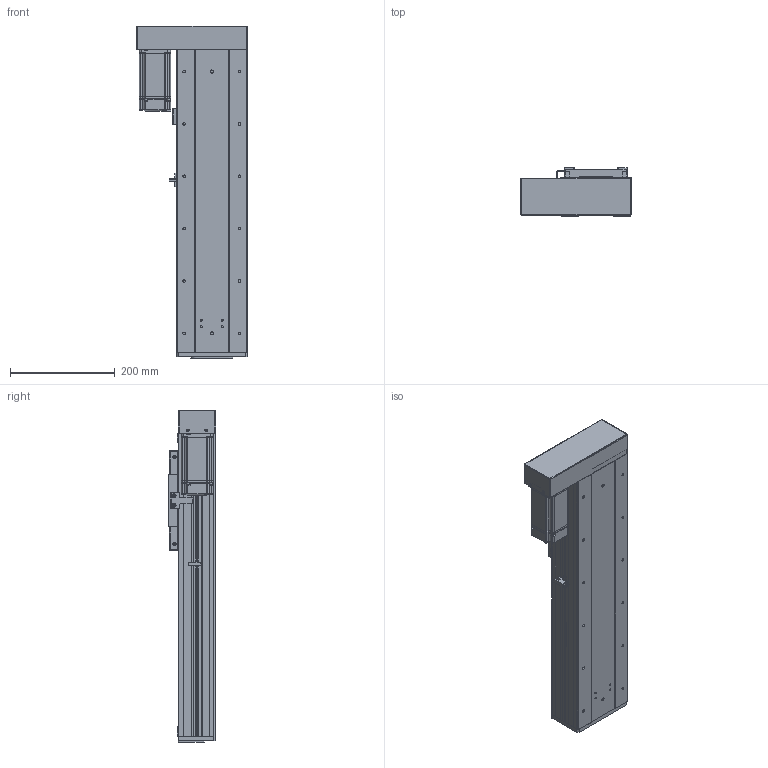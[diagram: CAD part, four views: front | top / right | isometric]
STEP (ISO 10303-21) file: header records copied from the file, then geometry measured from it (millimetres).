
FILE_DESCRIPTION (( 'STEP AP203' ), '1' );
FILE_NAME ('RY140F-L2020-300-LK.SLDASM_300.step', '2021-03-02T08:36:42', ( '盈信电脑' ), ( '东莞市道滘镇水果街19号' ), 'SwSTEP 2.0', 'SolidWorks 2012', '' );
FILE_SCHEMA (( 'CONFIG_CONTROL_DESIGN' ));
Products named in the file (19): RY140F-左右折电机安装板(400W M5); RY140F-L2020-300-LK.SLDASM_300; RY140F-酘衵殏萇儂欶(400W); RY140F-672覜茼んえ; RY140F-詩湍揤え; RY140F-转折折电机座（7001）; 侐源滅袉蝶; 15; RY140F-后盖板(铝件）; 覜茼ん672; 侂狟400W侜督萇儂; RY140F-詩湍幗謫粣; RY140F-直连型材铝滑块(16丝杆); RY100F-詩湍揤踡謫; RY140F-300-LK蛌殏詩湍; RY140F-直连型材铝滑块连接座; RY140F-300-LK倰第奻裔啣; RY140F-滅鳥奻裔; RY140F-300-LK倰第菁釱
Assembly tree (23 placements, depth 3):
  RY140F-L2020-300-LK.SLDASM_300
    RY140F-300-LK倰第菁釱
    RY140F-300-LK倰第奻裔啣  x2
    RY140F-300-LK蛌殏詩湍
    RY140F-直连型材铝滑块连接座
    RY140F-滅鳥奻裔
    RY140F-詩湍幗謫粣
    RY100F-詩湍揤踡謫
    RY140F-直连型材铝滑块(16丝杆)
    RY140F-后盖板(铝件）
    侂狟400W侜督萇儂
      15
    覜茼ん672
    RY140F-672覜茼んえ
    RY140F-詩湍揤え  x2
    侐源滅袉蝶  x4
    RY140F-转折折电机座（7001）
    RY140F-左右折电机安装板(400W M5)
    RY140F-酘衵殏萇儂欶(400W)
Bounding box: 211 x 91 x 634 mm (x, y, z)
Volume: 2910907.4 mm3; surface area: 1027113 mm2
Topology: 22 solids, 22 shells, 1981 faces, 5409 edges, 3444 vertices
Faces by surface type: cylinder 956, plane 789, cone 206, bspline 26, torus 4
Entity records: 62699 total; most frequent: CARTESIAN_POINT 13333, DIRECTION 9998, ORIENTED_EDGE 9746, EDGE_CURVE 4873, AXIS2_PLACEMENT_3D 3573, VERTEX_POINT 3184, LINE 2852, VECTOR 2852
